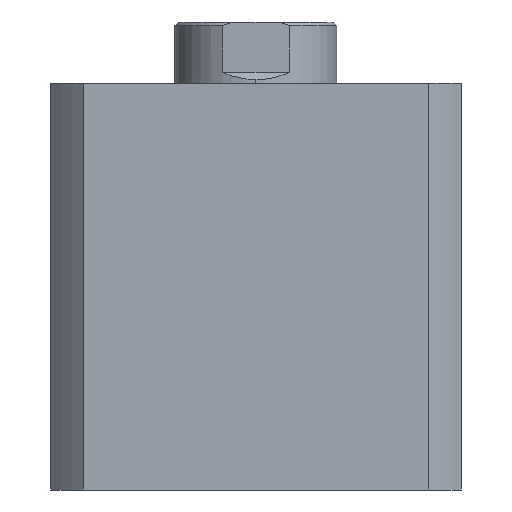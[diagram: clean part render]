
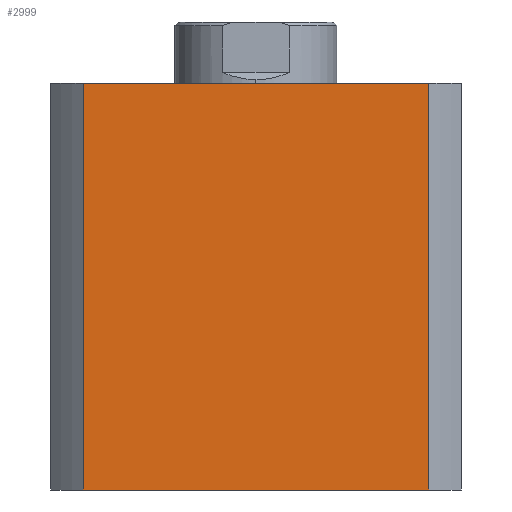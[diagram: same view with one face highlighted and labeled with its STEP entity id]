
A CAD part, left-side view. The second image highlights one B-rep face of the part: STEP entity #2999.
In plain terms, the highlighted planar face has unit normal (-1, 0, 0).
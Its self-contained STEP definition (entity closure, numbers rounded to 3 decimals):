
#308 = DIRECTION ( 'NONE',  ( 0., -1., 0. ) ) ;
#310 = CARTESIAN_POINT ( 'NONE',  ( -57., 0., 113. ) ) ;
#342 = DIRECTION ( 'NONE',  ( 0., 0., -1. ) ) ;
#343 = CARTESIAN_POINT ( 'NONE',  ( -57., 47.971, 113. ) ) ;
#353 = DIRECTION ( 'NONE',  ( 0., 0., -1. ) ) ;
#355 = CARTESIAN_POINT ( 'NONE',  ( -57., -47.971, 113. ) ) ;
#552 = CARTESIAN_POINT ( 'NONE',  ( -57., 0., 0. ) ) ;
#553 = DIRECTION ( 'NONE',  ( 0., -1., 0. ) ) ;
#921 = LINE ( 'NONE', #552, #925 ) ;
#925 = VECTOR ( 'NONE', #553, 1000. ) ;
#970 = LINE ( 'NONE', #310, #3539 ) ;
#988 = ORIENTED_EDGE ( 'NONE', *, *, #1413, .T. ) ;
#1058 = EDGE_LOOP ( 'NONE', ( #988, #1171, #1917, #1918 ) ) ;
#1171 = ORIENTED_EDGE ( 'NONE', *, *, #1451, .F. ) ;
#1413 = EDGE_CURVE ( 'NONE', #3504, #1903, #921, .T. ) ;
#1449 = EDGE_CURVE ( 'NONE', #1824, #3504, #3534, .T. ) ;
#1451 = EDGE_CURVE ( 'NONE', #1874, #1903, #3536, .T. ) ;
#1454 = EDGE_CURVE ( 'NONE', #1824, #1874, #970, .T. ) ;
#1824 = VERTEX_POINT ( 'NONE', #4310 ) ;
#1874 = VERTEX_POINT ( 'NONE', #4216 ) ;
#1903 = VERTEX_POINT ( 'NONE', #2663 ) ;
#1917 = ORIENTED_EDGE ( 'NONE', *, *, #1454, .F. ) ;
#1918 = ORIENTED_EDGE ( 'NONE', *, *, #1449, .T. ) ;
#2293 = DIRECTION ( 'NONE',  ( 0., 0., -1. ) ) ;
#2299 = DIRECTION ( 'NONE',  ( 1., 0., 0. ) ) ;
#2328 = PLANE ( 'NONE',  #3300 ) ;
#2343 = CARTESIAN_POINT ( 'NONE',  ( -57., 0., 113. ) ) ;
#2663 = CARTESIAN_POINT ( 'NONE',  ( -57., -47.971, 0. ) ) ;
#2999 = ADVANCED_FACE ( 'NONE', ( #3779 ), #2328, .F. ) ;
#3300 = AXIS2_PLACEMENT_3D ( 'NONE', #2343, #2299, #2293 ) ;
#3504 = VERTEX_POINT ( 'NONE', #5076 ) ;
#3534 = LINE ( 'NONE', #343, #3535 ) ;
#3535 = VECTOR ( 'NONE', #342, 1000. ) ;
#3536 = LINE ( 'NONE', #355, #3538 ) ;
#3538 = VECTOR ( 'NONE', #353, 1000. ) ;
#3539 = VECTOR ( 'NONE', #308, 1000. ) ;
#3779 = FACE_OUTER_BOUND ( 'NONE', #1058, .T. ) ;
#4216 = CARTESIAN_POINT ( 'NONE',  ( -57., -47.971, 113. ) ) ;
#4310 = CARTESIAN_POINT ( 'NONE',  ( -57., 47.971, 113. ) ) ;
#5076 = CARTESIAN_POINT ( 'NONE',  ( -57., 47.971, 0. ) ) ;
